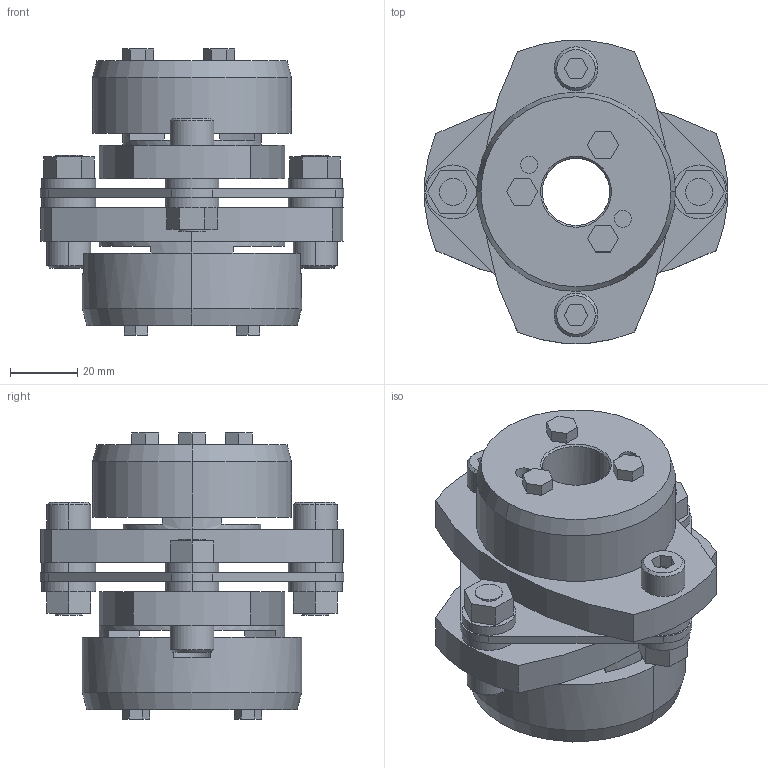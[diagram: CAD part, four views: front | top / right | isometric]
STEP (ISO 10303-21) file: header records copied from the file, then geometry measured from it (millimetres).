
FILE_DESCRIPTION((''),'2;1');
FILE_NAME('LCS-90T7-20×35.stp','2011-09-09T10:06:54',(''),(''),'AutoCAD STEP 2000i','AutoCAD 2000i',', , ');
FILE_SCHEMA(('CONFIG_CONTROL_DESIGN'));
Length unit declared in the file: millimetre
Products named in the file (11): LCS-90T7-19×35; 忣兜1; LC90T7-T035; LC90T7-T032; LC90T7-T030; LC90T7-T025; LC90T7-T019-1; LC90T7-T019; LC90-B019-1; LC90-B019; LCS90-ITA
Assembly tree (10 placements, depth 2):
  LCS-90T7-19×35
    忣兜1
    LC90T7-T035
    LC90T7-T032
    LC90T7-T030
    LC90T7-T025
    LC90T7-T019-1
    LC90T7-T019
    LC90-B019-1
    LC90-B019
    LCS90-ITA
Bounding box: 90 x 89.94 x 84.8 mm (x, y, z)
Volume: 199124.6 mm3; surface area: 52863.9 mm2
Topology: 1 solids, 1 shells, 244 faces, 598 edges, 390 vertices
Faces by surface type: plane 142, cylinder 82, cone 20
Entity records: 7469 total; most frequent: DIRECTION 1312, CARTESIAN_POINT 1243, ORIENTED_EDGE 1196, EDGE_CURVE 598, AXIS2_PLACEMENT_3D 459, VECTOR 394, LINE 394, VERTEX_POINT 390
